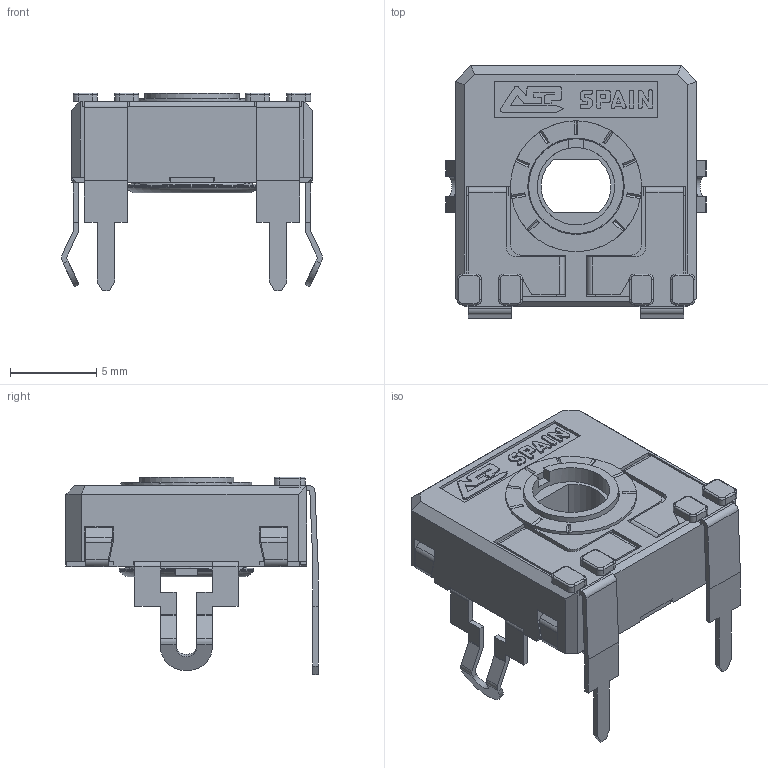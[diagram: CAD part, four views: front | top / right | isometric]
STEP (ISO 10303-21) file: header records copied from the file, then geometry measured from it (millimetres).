
FILE_DESCRIPTION(/* description */ (''),/* implementation_level */ '2;1');
FILE_NAME(/* name */ '\\SERVERACP\intercambio\Ignacio Santa Cecilia\Nueva WEB 2025\CA14 - CE14\CA14NVD7,5.stp',/* time_stamp */ '2025-06-03T18:03:02+02:00',/* author */ ('CEM'),/* organization */ (''),/* preprocessor_version */ 'ST-DEVELOPER v17',/* originating_system */ 'Autodesk Inventor 2018',/* authorisation */ '');
FILE_SCHEMA (('AUTOMOTIVE_DESIGN { 1 0 10303 214 3 1 1 }'));
Length unit declared in the file: millimetre
Products named in the file (1): CARCASA CA14 PGA
Bounding box: 15.16 x 14.65 x 11.5 mm (x, y, z)
Volume: 542.8 mm3; surface area: 1555 mm2
Topology: 1 solids, 1 shells, 732 faces, 2081 edges, 1341 vertices
Faces by surface type: plane 534, cylinder 161, torus 23, bspline 8, cone 6
Full cylindrical faces by diameter (mm): 4.5 x1, 5.5 x1, 5.6 x1, 5.752 x1, 6.8 x1, 7.6 x1
Entity records: 24057 total; most frequent: CARTESIAN_POINT 4452, ORIENTED_EDGE 4162, DIRECTION 3897, EDGE_CURVE 2081, LINE 1625, VECTOR 1625, VERTEX_POINT 1341, AXIS2_PLACEMENT_3D 1136
